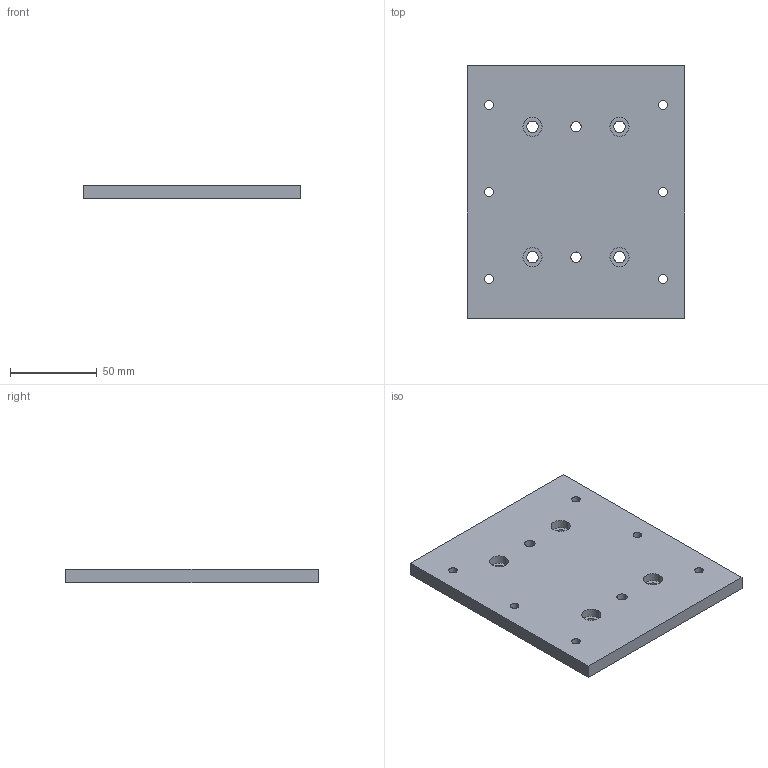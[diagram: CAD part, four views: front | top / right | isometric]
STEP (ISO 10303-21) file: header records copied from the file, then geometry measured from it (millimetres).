
FILE_DESCRIPTION (( 'STEP AP203' ), '1' );
FILE_NAME ('_-_PS8.step', '2005-09-07T12:56:58', ( ' ' ), ( ' ' ), 'SwSTEP 2.0', 'SolidWorks 2005187', '' );
FILE_SCHEMA (( 'CONFIG_CONTROL_DESIGN' ));
Length unit declared in the file: millimetre
Products named in the file (2): _-_PS8; TE1710 Schlittenplatte PS8_Standard
Assembly tree (1 placements, depth 2):
  _-_PS8
    TE1710 Schlittenplatte PS8_Standard
Bounding box: 125 x 145 x 8 mm (x, y, z)
Volume: 141293.9 mm3; surface area: 41943.1 mm2
Topology: 1 solids, 1 shells, 42 faces, 108 edges, 72 vertices
Faces by surface type: cylinder 32, plane 10
Entity records: 1560 total; most frequent: DIRECTION 264, CARTESIAN_POINT 226, ORIENTED_EDGE 216, AXIS2_PLACEMENT_3D 110, EDGE_CURVE 108, VERTEX_POINT 72, EDGE_LOOP 70, CIRCLE 64
